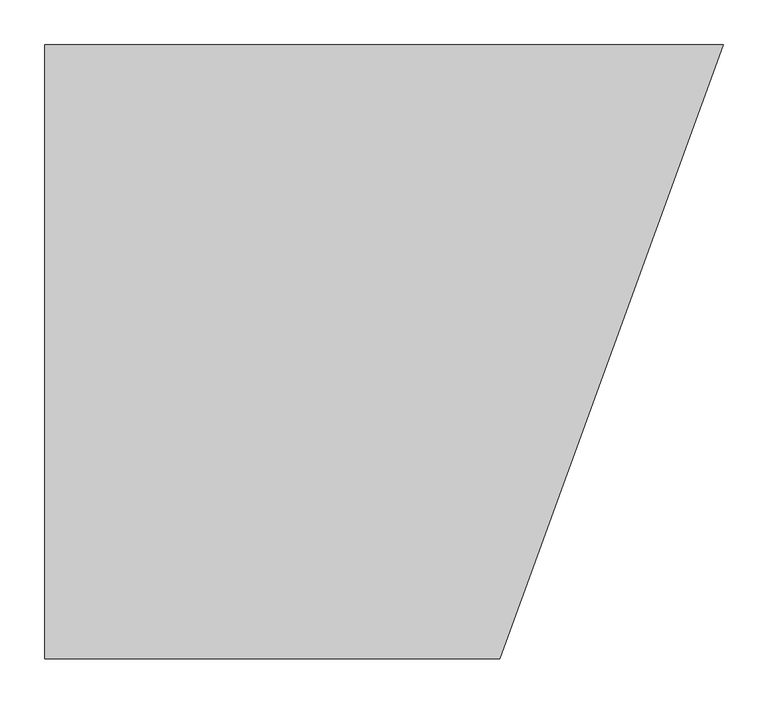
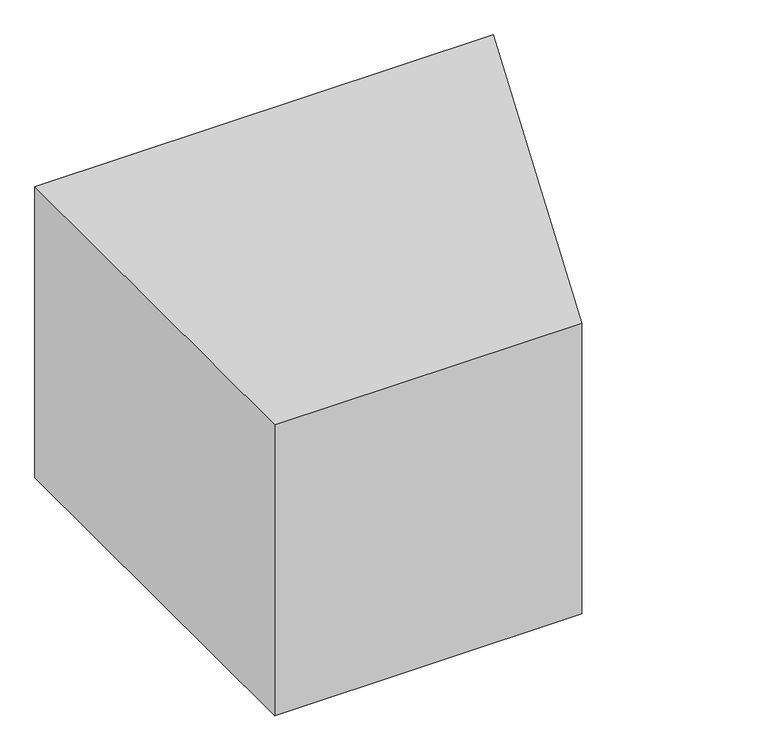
"""IFC4 building model written with IfcOpenShell, lengths in millimetres: proxy geometry, DATUM^OFFICE 2_DESK-LEFT BASE."""

from ifc_helpers import new_model, si_unit, origin, origin_with_axes, place, context, project, spatial, polyline, outline, extrude, source, transform, mapped, element, save


def generic_models_1256d309(model_context):
    return source(origin(), model_context, "Body", "SweptSolid", [
        extrude(outline(polyline([(0.0, 0.0), (0.0, 685.8), (757.6107867, 685.8), (508.0, 0.0), (0.0, 0.0)])), origin_with_axes(), (0.0, 0.0, 1.0), 508.0),
    ])


if __name__ == "__main__":
    model = new_model("IFC4")
    model_context = context("Model", 3, world=origin())
    ifc_project = project(units=[si_unit("LENGTHUNIT", "METRE", prefix="MILLI")], contexts=[model_context])
    site = spatial("IfcSite", under=ifc_project)
    building = spatial("IfcBuilding", under=site)
    placement = place(None, origin())
    generic_models_shape = generic_models_1256d309(model_context)
    element("IfcBuildingElementProxy", 1, Name="DATUM^OFFICE 2_DESK-LEFT BASE", ObjectType="DATUM^OFFICE 2_DESK-LEFT BASE", at=placement, inside=building, context=model_context, shape_type="MappedRepresentation", body=[
        mapped(generic_models_shape, transform((0.0, 0.0, 0.0), x_axis=(1.0, 0.0, 0.0), y_axis=(0.0, 1.0, 0.0), z_axis=(0.0, 0.0, 1.0))),
    ])
    save(model, "model.ifc")
